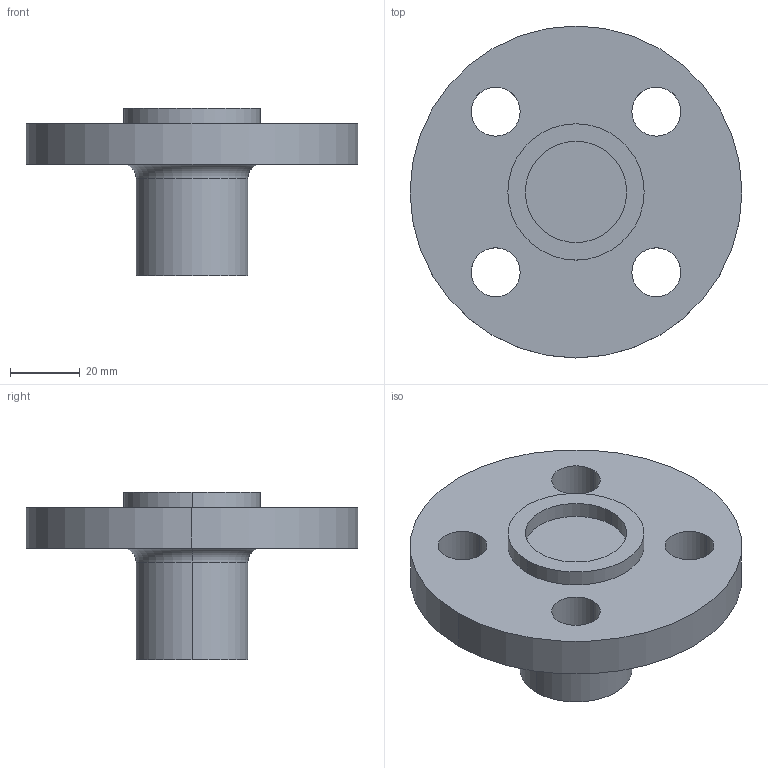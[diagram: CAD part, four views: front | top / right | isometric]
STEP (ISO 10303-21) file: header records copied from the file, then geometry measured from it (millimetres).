
FILE_DESCRIPTION (( 'STEP AP214' ), '1' );
FILE_NAME ('PN40 DN15 Type 21(i) - Type C Face.STEP', '2018-12-29T14:29:43', ( '' ), ( '' ), 'SwSTEP 2.0', 'SolidWorks 2019', '' );
FILE_SCHEMA (( 'AUTOMOTIVE_DESIGN' ));
Length unit declared in the file: millimetre
Products named in the file (1): PN40 DN15 Type 21(i) - Type C Face
Bounding box: 95 x 95 x 48 mm (x, y, z)
Volume: 102937.1 mm3; surface area: 22413.2 mm2
Topology: 1 solids, 1 shells, 23 faces, 52 edges, 34 vertices
Faces by surface type: cylinder 16, plane 5, torus 2
Entity records: 716 total; most frequent: DIRECTION 136, CARTESIAN_POINT 110, ORIENTED_EDGE 104, AXIS2_PLACEMENT_3D 60, EDGE_CURVE 52, CIRCLE 36, VERTEX_POINT 34, EDGE_LOOP 34
